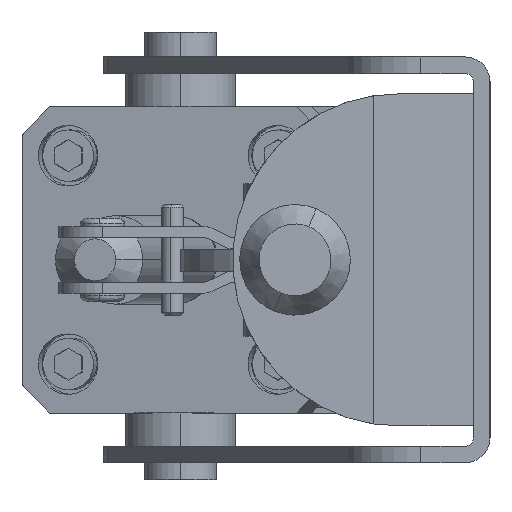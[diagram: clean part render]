
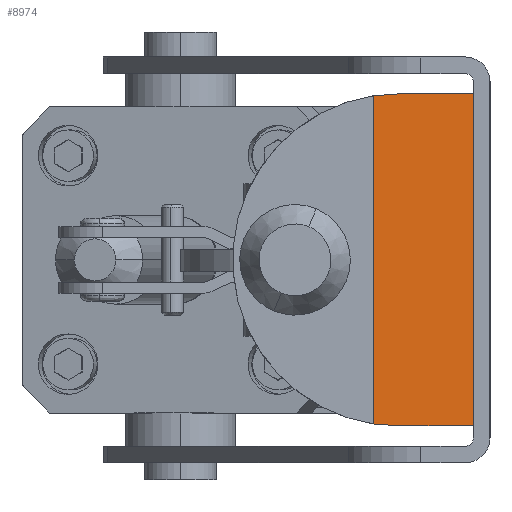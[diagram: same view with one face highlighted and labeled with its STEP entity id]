
A CAD part, left-side view. The second image highlights one B-rep face of the part: STEP entity #8974.
In plain terms, the highlighted planar face has unit normal (-0.707, -0.707, 0).
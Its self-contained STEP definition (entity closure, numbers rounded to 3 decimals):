
#1006 = VECTOR ( 'NONE', #14983, 1000. ) ;
#1384 = DIRECTION ( 'NONE',  ( 0.707, -0.707, 0. ) ) ;
#1739 = VECTOR ( 'NONE', #18804, 1000. ) ;
#2349 = CARTESIAN_POINT ( 'NONE',  ( -105.516, -18.165, 21.83 ) ) ;
#2654 = CARTESIAN_POINT ( 'NONE',  ( -92.005, -31.675, 21.83 ) ) ;
#2989 = ORIENTED_EDGE ( 'NONE', *, *, #14401, .T. ) ;
#3281 = PLANE ( 'NONE',  #6207 ) ;
#3680 = DIRECTION ( 'NONE',  ( 0.707, -0.707, 0. ) ) ;
#3969 = VECTOR ( 'NONE', #3680, 1000. ) ;
#4070 = ORIENTED_EDGE ( 'NONE', *, *, #7498, .F. ) ;
#4477 = CARTESIAN_POINT ( 'NONE',  ( -108.519, -15.162, 21.717 ) ) ;
#4900 = CARTESIAN_POINT ( 'NONE',  ( -105.516, -18.165, 21.83 ) ) ;
#5351 = CARTESIAN_POINT ( 'NONE',  ( -105.516, -18.165, -38.22 ) ) ;
#5882 = EDGE_LOOP ( 'NONE', ( #19412, #18293, #9527, #4070, #13135, #2989 ) ) ;
#6104 = CARTESIAN_POINT ( 'NONE',  ( -110.005, -13.675, -37.882 ) ) ;
#6207 = AXIS2_PLACEMENT_3D ( 'NONE', #9168, #13108, #1384 ) ;
#6288 = CARTESIAN_POINT ( 'NONE',  ( -108.519, -15.162, -38.107 ) ) ;
#7498 = EDGE_CURVE ( 'NONE', #15049, #22488, #16666, .T. ) ;
#7591 = VERTEX_POINT ( 'NONE', #5351 ) ;
#8465 = DIRECTION ( 'NONE',  ( -0.707, 0.707, 0. ) ) ;
#8929 = CARTESIAN_POINT ( 'NONE',  ( -110.005, -13.675, -8.195 ) ) ;
#8974 = ADVANCED_FACE ( 'NONE', ( #22100 ), #3281, .T. ) ;
#9168 = CARTESIAN_POINT ( 'NONE',  ( -110.005, -13.675, -8.195 ) ) ;
#9448 = EDGE_CURVE ( 'NONE', #7591, #22488, #18388, .T. ) ;
#9527 = ORIENTED_EDGE ( 'NONE', *, *, #9448, .T. ) ;
#10236 = CARTESIAN_POINT ( 'NONE',  ( -105.516, -18.165, -38.22 ) ) ;
#11149 = VERTEX_POINT ( 'NONE', #18682 ) ;
#12425 = LINE ( 'NONE', #20204, #22273 ) ;
#12765 = LINE ( 'NONE', #8929, #1739 ) ;
#13003 = CARTESIAN_POINT ( 'NONE',  ( -92.005, -31.675, 21.83 ) ) ;
#13081 = EDGE_CURVE ( 'NONE', #24251, #7591, #19024, .T. ) ;
#13108 = DIRECTION ( 'NONE',  ( -0.707, -0.707, 0. ) ) ;
#13135 = ORIENTED_EDGE ( 'NONE', *, *, #17088, .T. ) ;
#14078 = CARTESIAN_POINT ( 'NONE',  ( -107.019, -16.662, 21.83 ) ) ;
#14401 = EDGE_CURVE ( 'NONE', #21259, #11149, #25164, .T. ) ;
#14983 = DIRECTION ( 'NONE',  ( 0., 0., -1. ) ) ;
#15049 = VERTEX_POINT ( 'NONE', #2654 ) ;
#15723 = EDGE_CURVE ( 'NONE', #11149, #24251, #12765, .T. ) ;
#16666 = LINE ( 'NONE', #13003, #1006 ) ;
#17088 = EDGE_CURVE ( 'NONE', #15049, #21259, #12425, .T. ) ;
#18192 = CARTESIAN_POINT ( 'NONE',  ( -110.005, -13.675, 21.492 ) ) ;
#18293 = ORIENTED_EDGE ( 'NONE', *, *, #13081, .T. ) ;
#18388 = LINE ( 'NONE', #21321, #3969 ) ;
#18682 = CARTESIAN_POINT ( 'NONE',  ( -110.005, -13.675, 21.492 ) ) ;
#18804 = DIRECTION ( 'NONE',  ( 0., 0., -1. ) ) ;
#19024 =( BOUNDED_CURVE ( )  B_SPLINE_CURVE ( 3, ( #6104, #6288, #22022, #10236 ),
 .UNSPECIFIED., .F., .F. ) 
 B_SPLINE_CURVE_WITH_KNOTS ( ( 4, 4 ),
 ( 4.562, 4.712 ),
 .UNSPECIFIED. ) 
 CURVE ( )  GEOMETRIC_REPRESENTATION_ITEM ( )  RATIONAL_B_SPLINE_CURVE ( ( 1., 0.998, 0.998, 1. ) ) 
 REPRESENTATION_ITEM ( '' )  );
#19412 = ORIENTED_EDGE ( 'NONE', *, *, #15723, .T. ) ;
#20204 = CARTESIAN_POINT ( 'NONE',  ( -110.005, -13.675, 21.83 ) ) ;
#20587 = CARTESIAN_POINT ( 'NONE',  ( -92.005, -31.675, -38.22 ) ) ;
#21259 = VERTEX_POINT ( 'NONE', #4900 ) ;
#21321 = CARTESIAN_POINT ( 'NONE',  ( -110.005, -13.675, -38.22 ) ) ;
#22022 = CARTESIAN_POINT ( 'NONE',  ( -107.019, -16.662, -38.22 ) ) ;
#22100 = FACE_OUTER_BOUND ( 'NONE', #5882, .T. ) ;
#22273 = VECTOR ( 'NONE', #8465, 1000. ) ;
#22488 = VERTEX_POINT ( 'NONE', #20587 ) ;
#24251 = VERTEX_POINT ( 'NONE', #24589 ) ;
#24589 = CARTESIAN_POINT ( 'NONE',  ( -110.005, -13.675, -37.882 ) ) ;
#25164 =( BOUNDED_CURVE ( )  B_SPLINE_CURVE ( 3, ( #2349, #14078, #4477, #18192 ),
 .UNSPECIFIED., .F., .F. ) 
 B_SPLINE_CURVE_WITH_KNOTS ( ( 4, 4 ),
 ( 1.571, 1.721 ),
 .UNSPECIFIED. ) 
 CURVE ( )  GEOMETRIC_REPRESENTATION_ITEM ( )  RATIONAL_B_SPLINE_CURVE ( ( 1., 0.998, 0.998, 1. ) ) 
 REPRESENTATION_ITEM ( '' )  );
